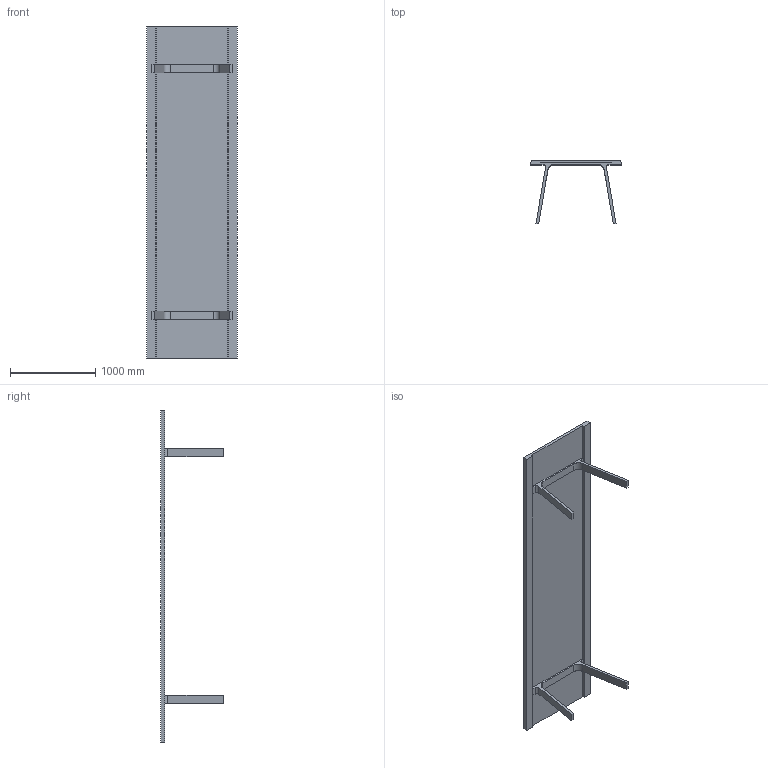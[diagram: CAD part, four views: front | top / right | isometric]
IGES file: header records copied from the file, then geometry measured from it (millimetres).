
Start section: SolidWorks IGES file using analytic representation for surfaces
Global section: file name: G:\Product Info\Doble\3D\igs\Doble 390x105x74.IGS; native system: SolidWorks 2008; preprocessor: SolidWorks 2008; author: remko; date: 080826.135129; units: millimetre
Bounding box: 1067.63 x 740 x 3900 mm (x, y, z)
Surface area: 9799138.5 mm2 (no closed solid volume)
Topology: 0 solids, 0 shells, 46 faces, 356 edges, 356 vertices
Faces by surface type: bspline 36, revolution 10
